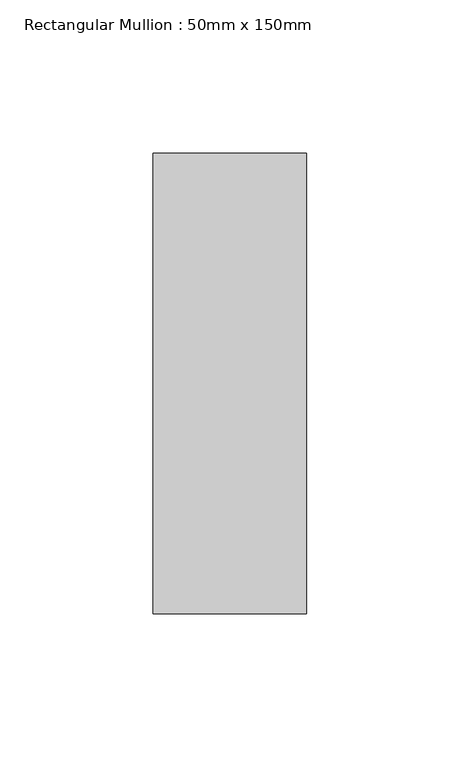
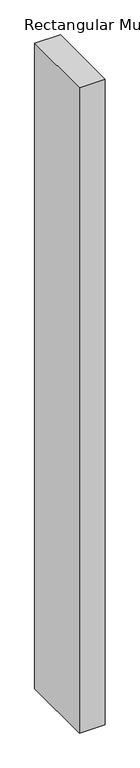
"""IFC4 building model written with IfcOpenShell, lengths in millimetres: member geometry, Rectangular Mullion : 50mm x 150mm."""

from ifc_helpers import new_model, si_unit, frame, origin, place, context, project, spatial, polyline, outline, extrude, source, transform, mapped, element, save


def rectangular_mullion_50mm_x_150mm_84fc3287(model_context):
    return source(origin(), model_context, "Body", "SweptSolid", [
        extrude(outline(polyline([(0.0, 75.0), (0.0, -75.0), (-50.0, -75.0), (-50.0, 75.0), (0.0, 75.0)])), frame((0.0, 0.0, -1321.6199625), z_axis=(0.0, 0.0, 1.0), x_axis=(1.0, 0.0, 0.0)), (0.0, 0.0, 1.0), 1321.6199625),
    ])


if __name__ == "__main__":
    model = new_model("IFC4")
    model_context = context("Model", 3, world=origin())
    ifc_project = project(units=[si_unit("LENGTHUNIT", "METRE", prefix="MILLI")], contexts=[model_context])
    site = spatial("IfcSite", under=ifc_project)
    building = spatial("IfcBuilding", under=site)
    placement = place(None, origin())
    rectangular_mullion_50mm_x_150mm_shape = rectangular_mullion_50mm_x_150mm_84fc3287(model_context)
    element("IfcMember", 1, ObjectType="Rectangular Mullion : 50mm x 150mm", at=placement, inside=building, context=model_context, shape_type="MappedRepresentation", body=[
        mapped(rectangular_mullion_50mm_x_150mm_shape, transform((0.0, 0.0, 0.0), x_axis=(1.0, 0.0, 0.0), y_axis=(0.0, 1.0, 0.0), z_axis=(0.0, 0.0, 1.0))),
    ])
    save(model, "model.ifc")
